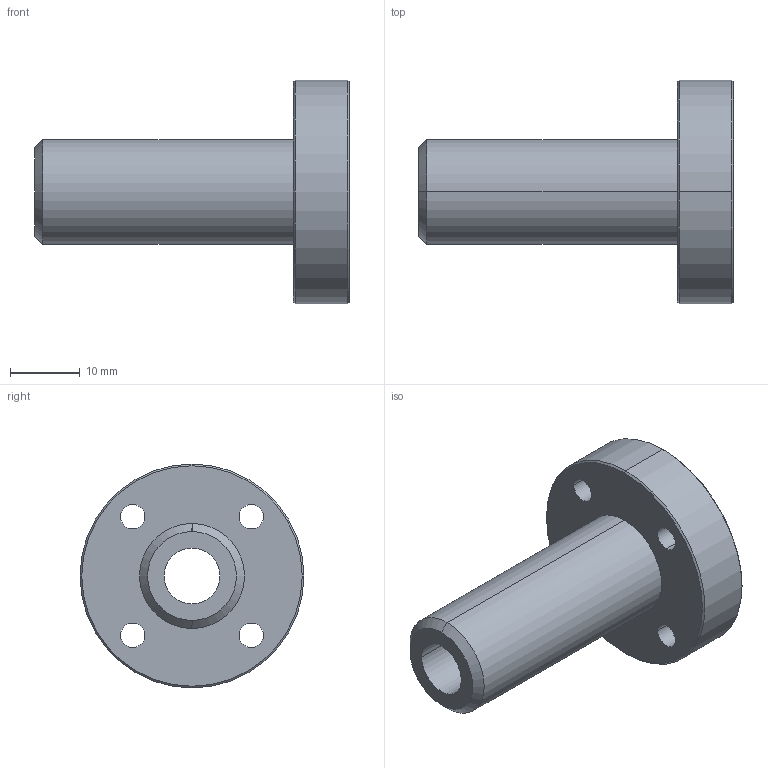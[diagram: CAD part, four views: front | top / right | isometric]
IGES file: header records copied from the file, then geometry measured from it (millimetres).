
Start section: 3D InterOp IGES (Version 21 0 1), Spatial Corp. Copyright (c) 1999-2007.
Global section: file name: DFPJR08.igs; native system: Spatial Corp.; preprocessor: 3D InterOp GENERIC/IGES 3.0; author: Noname; organization: Noname; date: 20220324.144103; units: millimetre
Bounding box: 45 x 32 x 32 mm (x, y, z)
Surface area: 5495.5 mm2 (no closed solid volume)
Topology: 0 solids, 0 shells, 35 faces, 156 edges, 156 vertices
Faces by surface type: revolution 28, extrusion 7
